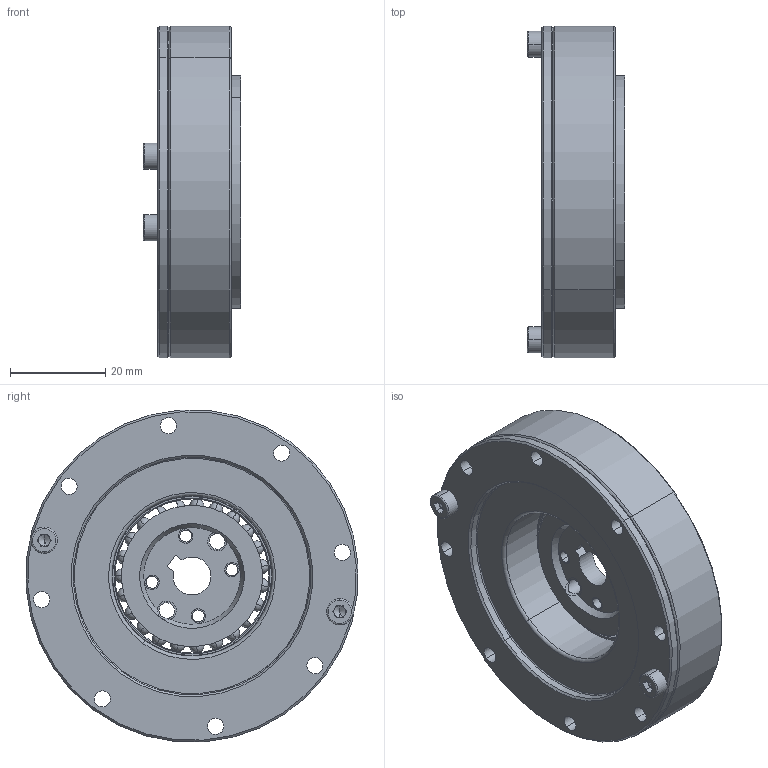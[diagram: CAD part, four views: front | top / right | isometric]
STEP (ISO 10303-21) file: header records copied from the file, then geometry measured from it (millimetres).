
FILE_DESCRIPTION((''),'2;1');
FILE_NAME('LHD-14-XX-U-I-K8_ASM','2021-05-26T',('Administrator'),(''),'PRO/ENGINEER BY PARAMETRIC TECHNOLOGY CORPORATION, 2014200','PRO/ENGINEER BY PARAMETRIC TECHNOLOGY CORPORATION, 2014200','');
FILE_SCHEMA(('AUTOMOTIVE_DESIGN { 1 0 10303 214 1 1 1 1 }'));
Length unit declared in the file: millimetre
Products named in the file (13): RZC-14_1_1; LHD-14-XXX-P01_1_1; MANIFOLD_SOLID_BREP_9775_1; MANIFOLD_SOLID_BREP_12315_1; PRT0201; LHD-14-XXX-P04_1_ASM_1_ASM; LHD-14-XXX-C-I_ASM_1_ASM_1_ASM; PRT0142_2; LHD-14-XX-U-I_ASM_1_ASM; PRT0200; SOCKET_HEAD_CAP_SCREW_DIN-24361; SOCKET_HEAD_CAP_SCREW_DIN-25289; LHD-14-XX-U-I-K8_ASM
Assembly tree (28 placements, depth 5):
  LHD-14-XX-U-I-K8_ASM
    LHD-14-XX-U-I_ASM_1_ASM
      LHD-14-XXX-C-I_ASM_1_ASM_1_ASM
        RZC-14_1_1
        LHD-14-XXX-P01_1_1
        LHD-14-XXX-P04_1_ASM_1_ASM
          MANIFOLD_SOLID_BREP_9775_1
          MANIFOLD_SOLID_BREP_12315_1
          PRT0201
      PRT0142_2
    PRT0200
    SOCKET_HEAD_CAP_SCREW_DIN-24361  x16
    SOCKET_HEAD_CAP_SCREW_DIN-25289  x2
Bounding box: 20.5 x 69.84 x 69.84 mm (x, y, z)
Volume: 42285.1 mm3; surface area: 41017 mm2
Topology: 25 solids, 55 shells, 1039 faces, 2721 edges, 1629 vertices
Faces by surface type: cylinder 373, plane 337, cone 158, torus 121, sphere 50
Entity records: 22344 total; most frequent: CARTESIAN_POINT 5380, DIRECTION 3670, ORIENTED_EDGE 3196, EDGE_CURVE 1661, AXIS2_PLACEMENT_3D 1606, VERTEX_POINT 1101, CIRCLE 944, EDGE_LOOP 792
